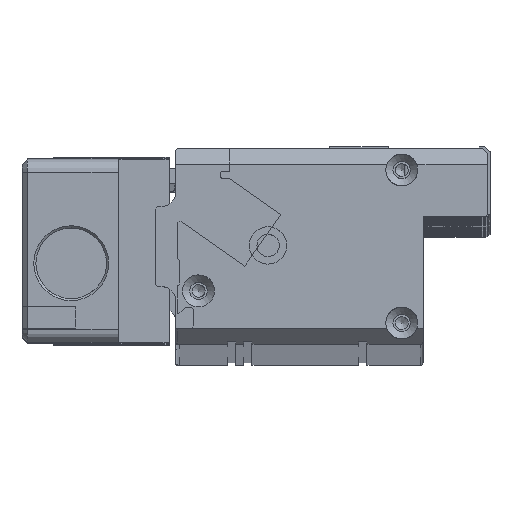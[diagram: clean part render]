
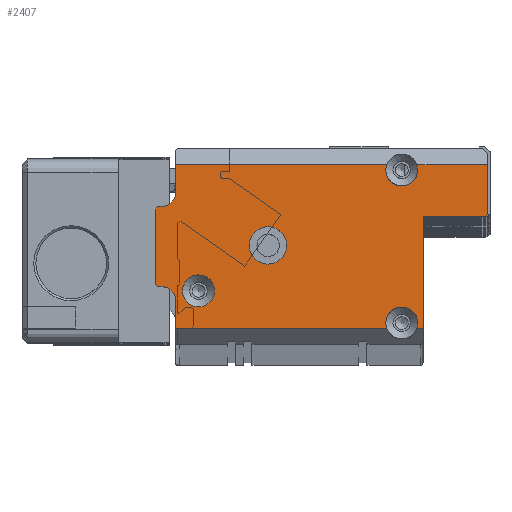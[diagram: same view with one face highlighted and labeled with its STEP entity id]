
A CAD part, top view. The second image highlights one B-rep face of the part: STEP entity #2407.
In plain terms, the highlighted planar face has unit normal (0, 0, 1).
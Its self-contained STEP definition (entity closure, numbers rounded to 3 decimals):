
#905=FACE_BOUND('',#5632,.T.);
#906=FACE_BOUND('',#5633,.T.);
#907=FACE_BOUND('',#5634,.T.);
#1223=CIRCLE('',#25112,3.);
#1224=CIRCLE('',#25113,3.);
#1225=CIRCLE('',#25114,0.5);
#1226=CIRCLE('',#25115,0.5);
#1227=CIRCLE('',#25116,3.);
#1228=CIRCLE('',#25117,2.5);
#1229=CIRCLE('',#25118,0.5);
#1230=CIRCLE('',#25119,0.5);
#1231=CIRCLE('',#25120,2.5);
#1232=CIRCLE('',#25121,3.5);
#2407=ADVANCED_FACE('',(#905,#906,#907),#3570,.T.);
#3570=PLANE('',#25122);
#5632=EDGE_LOOP('',(#12579));
#5633=EDGE_LOOP('',(#12580,#12581,#12582,#12583,#12584,#12585,#12586,#12587,
#12588,#12589,#12590,#12591,#12592,#12593,#12594,#12595,#12596,#12597,#12598,
#12599));
#5634=EDGE_LOOP('',(#12600));
#7168=LINE('',#35728,#9516);
#7169=LINE('',#35730,#9517);
#7170=LINE('',#35734,#9518);
#7171=LINE('',#35738,#9519);
#7172=LINE('',#35740,#9520);
#7173=LINE('',#35744,#9521);
#7174=LINE('',#35746,#9522);
#7175=LINE('',#35750,#9523);
#7176=LINE('',#35754,#9524);
#7177=LINE('',#35758,#9525);
#7178=LINE('',#35762,#9526);
#7179=LINE('',#35764,#9527);
#9516=VECTOR('',#28244,1.);
#9517=VECTOR('',#28245,1.);
#9518=VECTOR('',#28248,1.);
#9519=VECTOR('',#28251,1.);
#9520=VECTOR('',#28252,1.);
#9521=VECTOR('',#28255,1.);
#9522=VECTOR('',#28256,1.);
#9523=VECTOR('',#28259,1.);
#9524=VECTOR('',#28262,1.);
#9525=VECTOR('',#28265,1.);
#9526=VECTOR('',#28268,1.);
#9527=VECTOR('',#28269,1.);
#12579=ORIENTED_EDGE('',*,*,#21693,.T.);
#12580=ORIENTED_EDGE('',*,*,#21694,.T.);
#12581=ORIENTED_EDGE('',*,*,#21695,.T.);
#12582=ORIENTED_EDGE('',*,*,#21696,.T.);
#12583=ORIENTED_EDGE('',*,*,#21697,.T.);
#12584=ORIENTED_EDGE('',*,*,#21698,.T.);
#12585=ORIENTED_EDGE('',*,*,#21699,.T.);
#12586=ORIENTED_EDGE('',*,*,#21700,.T.);
#12587=ORIENTED_EDGE('',*,*,#21701,.T.);
#12588=ORIENTED_EDGE('',*,*,#21702,.T.);
#12589=ORIENTED_EDGE('',*,*,#21703,.T.);
#12590=ORIENTED_EDGE('',*,*,#21704,.T.);
#12591=ORIENTED_EDGE('',*,*,#21705,.T.);
#12592=ORIENTED_EDGE('',*,*,#21706,.T.);
#12593=ORIENTED_EDGE('',*,*,#21707,.T.);
#12594=ORIENTED_EDGE('',*,*,#21708,.T.);
#12595=ORIENTED_EDGE('',*,*,#21709,.T.);
#12596=ORIENTED_EDGE('',*,*,#21710,.T.);
#12597=ORIENTED_EDGE('',*,*,#21711,.T.);
#12598=ORIENTED_EDGE('',*,*,#21712,.T.);
#12599=ORIENTED_EDGE('',*,*,#21713,.T.);
#12600=ORIENTED_EDGE('',*,*,#21714,.T.);
#19073=VERTEX_POINT('',#35724);
#19074=VERTEX_POINT('',#35726);
#19075=VERTEX_POINT('',#35727);
#19076=VERTEX_POINT('',#35729);
#19077=VERTEX_POINT('',#35731);
#19078=VERTEX_POINT('',#35733);
#19079=VERTEX_POINT('',#35735);
#19080=VERTEX_POINT('',#35737);
#19081=VERTEX_POINT('',#35739);
#19082=VERTEX_POINT('',#35741);
#19083=VERTEX_POINT('',#35743);
#19084=VERTEX_POINT('',#35745);
#19085=VERTEX_POINT('',#35747);
#19086=VERTEX_POINT('',#35749);
#19087=VERTEX_POINT('',#35751);
#19088=VERTEX_POINT('',#35753);
#19089=VERTEX_POINT('',#35755);
#19090=VERTEX_POINT('',#35757);
#19091=VERTEX_POINT('',#35759);
#19092=VERTEX_POINT('',#35761);
#19093=VERTEX_POINT('',#35763);
#19094=VERTEX_POINT('',#35766);
#21693=EDGE_CURVE('',#19073,#19073,#1223,.T.);
#21694=EDGE_CURVE('',#19074,#19075,#1224,.T.);
#21695=EDGE_CURVE('',#19075,#19076,#7168,.T.);
#21696=EDGE_CURVE('',#19076,#19077,#7169,.T.);
#21697=EDGE_CURVE('',#19077,#19078,#1225,.T.);
#21698=EDGE_CURVE('',#19078,#19079,#7170,.T.);
#21699=EDGE_CURVE('',#19079,#19080,#1226,.T.);
#21700=EDGE_CURVE('',#19080,#19081,#7171,.T.);
#21701=EDGE_CURVE('',#19081,#19082,#7172,.T.);
#21702=EDGE_CURVE('',#19082,#19083,#1227,.T.);
#21703=EDGE_CURVE('',#19083,#19084,#7173,.T.);
#21704=EDGE_CURVE('',#19084,#19085,#7174,.T.);
#21705=EDGE_CURVE('',#19085,#19086,#1228,.T.);
#21706=EDGE_CURVE('',#19086,#19087,#7175,.T.);
#21707=EDGE_CURVE('',#19087,#19088,#1229,.T.);
#21708=EDGE_CURVE('',#19088,#19089,#7176,.T.);
#21709=EDGE_CURVE('',#19089,#19090,#1230,.T.);
#21710=EDGE_CURVE('',#19090,#19091,#7177,.T.);
#21711=EDGE_CURVE('',#19091,#19092,#1231,.T.);
#21712=EDGE_CURVE('',#19092,#19093,#7178,.T.);
#21713=EDGE_CURVE('',#19093,#19074,#7179,.T.);
#21714=EDGE_CURVE('',#19094,#19094,#1232,.T.);
#25112=AXIS2_PLACEMENT_3D('',#35723,#28240,#28241);
#25113=AXIS2_PLACEMENT_3D('',#35725,#28242,#28243);
#25114=AXIS2_PLACEMENT_3D('',#35732,#28246,#28247);
#25115=AXIS2_PLACEMENT_3D('',#35736,#28249,#28250);
#25116=AXIS2_PLACEMENT_3D('',#35742,#28253,#28254);
#25117=AXIS2_PLACEMENT_3D('',#35748,#28257,#28258);
#25118=AXIS2_PLACEMENT_3D('',#35752,#28260,#28261);
#25119=AXIS2_PLACEMENT_3D('',#35756,#28263,#28264);
#25120=AXIS2_PLACEMENT_3D('',#35760,#28266,#28267);
#25121=AXIS2_PLACEMENT_3D('',#35765,#28270,#28271);
#25122=AXIS2_PLACEMENT_3D('',#35767,#28272,#28273);
#28240=DIRECTION('',(0.,0.,-1.));
#28241=DIRECTION('',(-1.,0.,0.));
#28242=DIRECTION('',(0.,0.,-1.));
#28243=DIRECTION('',(-1.,0.,0.));
#28244=DIRECTION('',(1.,0.,0.));
#28245=DIRECTION('',(0.,1.,0.));
#28246=DIRECTION('',(0.,0.,-1.));
#28247=DIRECTION('',(1.,0.,0.));
#28248=DIRECTION('',(1.,0.,0.));
#28249=DIRECTION('',(0.,0.,1.));
#28250=DIRECTION('',(1.,0.,0.));
#28251=DIRECTION('',(0.,1.,0.));
#28252=DIRECTION('',(-1.,0.,0.));
#28253=DIRECTION('',(0.,0.,-1.));
#28254=DIRECTION('',(-1.,0.,0.));
#28255=DIRECTION('',(-1.,0.,0.));
#28256=DIRECTION('',(0.,-1.,0.));
#28257=DIRECTION('',(0.,0.,-1.));
#28258=DIRECTION('',(1.,0.,0.));
#28259=DIRECTION('',(-1.,0.,0.));
#28260=DIRECTION('',(0.,0.,1.));
#28261=DIRECTION('',(1.,0.,0.));
#28262=DIRECTION('',(0.,-1.,0.));
#28263=DIRECTION('',(0.,0.,1.));
#28264=DIRECTION('',(1.,0.,0.));
#28265=DIRECTION('',(1.,0.,0.));
#28266=DIRECTION('',(0.,0.,-1.));
#28267=DIRECTION('',(1.,0.,0.));
#28268=DIRECTION('',(0.,-1.,0.));
#28269=DIRECTION('',(1.,0.,0.));
#28270=DIRECTION('',(0.,0.,-1.));
#28271=DIRECTION('',(-1.,0.,0.));
#28272=DIRECTION('',(0.,0.,1.));
#28273=DIRECTION('',(-1.,0.,0.));
#35723=CARTESIAN_POINT('',(8.,-26.6,8.));
#35724=CARTESIAN_POINT('',(5.,-26.6,8.));
#35725=CARTESIAN_POINT('',(46.,-32.6,8.));
#35726=CARTESIAN_POINT('',(43.172,-33.6,8.));
#35727=CARTESIAN_POINT('',(48.828,-33.6,8.));
#35728=CARTESIAN_POINT('',(50.,-33.6,8.));
#35729=CARTESIAN_POINT('',(50.,-33.6,8.));
#35730=CARTESIAN_POINT('',(50.,-36.6,8.));
#35731=CARTESIAN_POINT('',(50.,-13.1,8.));
#35732=CARTESIAN_POINT('',(50.5,-13.1,8.));
#35733=CARTESIAN_POINT('',(50.5,-12.6,8.));
#35734=CARTESIAN_POINT('',(50.,-12.6,8.));
#35735=CARTESIAN_POINT('',(61.6,-12.6,8.));
#35736=CARTESIAN_POINT('',(61.6,-12.1,8.));
#35737=CARTESIAN_POINT('',(62.1,-12.1,8.));
#35738=CARTESIAN_POINT('',(62.1,-12.6,8.));
#35739=CARTESIAN_POINT('',(62.1,-3.,8.));
#35740=CARTESIAN_POINT('',(3.7,-3.,8.));
#35741=CARTESIAN_POINT('',(48.828,-3.,8.));
#35742=CARTESIAN_POINT('',(46.,-4.,8.));
#35743=CARTESIAN_POINT('',(43.172,-3.,8.));
#35744=CARTESIAN_POINT('',(3.7,-3.,8.));
#35745=CARTESIAN_POINT('',(3.7,-3.,8.));
#35746=CARTESIAN_POINT('',(3.7,0.,8.));
#35747=CARTESIAN_POINT('',(3.7,-8.3,8.));
#35748=CARTESIAN_POINT('',(1.2,-8.3,8.));
#35749=CARTESIAN_POINT('',(1.2,-10.8,8.));
#35750=CARTESIAN_POINT('',(3.7,-10.8,8.));
#35751=CARTESIAN_POINT('',(0.5,-10.8,8.));
#35752=CARTESIAN_POINT('',(0.5,-11.3,8.));
#35753=CARTESIAN_POINT('',(0.,-11.3,8.));
#35754=CARTESIAN_POINT('',(0.,-10.8,8.));
#35755=CARTESIAN_POINT('',(0.,-25.3,8.));
#35756=CARTESIAN_POINT('',(0.5,-25.3,8.));
#35757=CARTESIAN_POINT('',(0.5,-25.8,8.));
#35758=CARTESIAN_POINT('',(0.,-25.8,8.));
#35759=CARTESIAN_POINT('',(1.2,-25.8,8.));
#35760=CARTESIAN_POINT('',(1.2,-28.3,8.));
#35761=CARTESIAN_POINT('',(3.7,-28.3,8.));
#35762=CARTESIAN_POINT('',(3.7,-25.8,8.));
#35763=CARTESIAN_POINT('',(3.7,-33.6,8.));
#35764=CARTESIAN_POINT('',(50.,-33.6,8.));
#35765=CARTESIAN_POINT('',(21.,-18.1,8.));
#35766=CARTESIAN_POINT('',(17.5,-18.1,8.));
#35767=CARTESIAN_POINT('',(0.,0.,8.));
